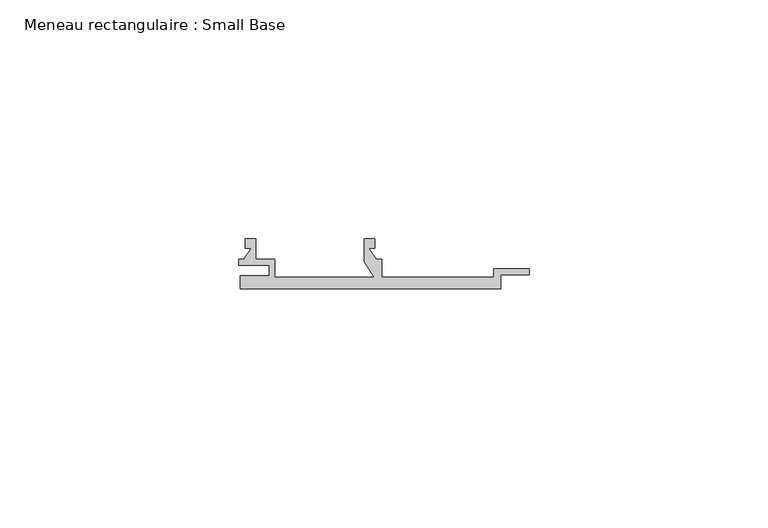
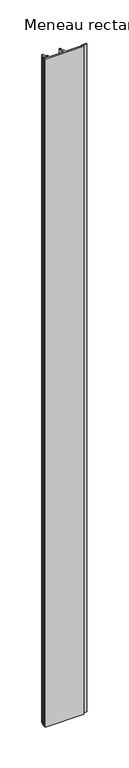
"""IFC4 building model written with IfcOpenShell, lengths in millimetres: member geometry, Meneau rectangulaire : Small Base."""

from ifc_helpers import new_model, si_unit, frame, origin, place, context, project, spatial, polyline, outline, extrude, source, transform, mapped, element, save


def meneau_rectangulaire_small_base_5a587032(model_context):
    return source(origin(), model_context, "Body", "SweptSolid", [
        extrude(outline(polyline([(0.0, 0.0), (0.0, 2.7), (6.0195527, 2.7), (6.0195527, 4.9), (-0.3862402, 4.9), (-0.3862402, 6.1021884), (0.6999453, 6.1021884), (2.2885111, 8.4994005), (1.0265772, 8.4994005), (1.0265772, 10.4818695), (3.2291033, 10.4818695), (3.2291033, 6.1), (7.2195527, 6.1), (7.2195527, 2.4), (28.0399616, 2.4), (25.9408405, 5.6343123), (25.9408405, 10.4818695), (28.1433665, 10.4818695), (28.1433665, 8.4994005), (26.8814326, 8.4994005), (28.4699984, 6.1021884), (29.5849719, 6.1021884), (29.5849719, 2.4), (53.0545393, 2.4), (53.0545393, 4.2), (60.5728944, 4.2), (60.5728944, 2.85), (54.5728944, 2.85), (54.5728944, 0.0), (0.0, 0.0)])), frame((0.0, 0.0, -1000.0), z_axis=(0.0, 0.0, 1.0), x_axis=(1.0, 0.0, 0.0)), (0.0, 0.0, 1.0), 1000.0),
    ])


if __name__ == "__main__":
    model = new_model("IFC4")
    model_context = context("Model", 3, world=origin())
    ifc_project = project(units=[si_unit("LENGTHUNIT", "METRE", prefix="MILLI")], contexts=[model_context])
    site = spatial("IfcSite", under=ifc_project)
    building = spatial("IfcBuilding", under=site)
    placement = place(None, origin())
    meneau_rectangulaire_small_base_shape = meneau_rectangulaire_small_base_5a587032(model_context)
    element("IfcMember", 1, ObjectType="Meneau rectangulaire : Small Base", at=placement, inside=building, context=model_context, shape_type="MappedRepresentation", body=[
        mapped(meneau_rectangulaire_small_base_shape, transform((0.0, 0.0, 0.0), x_axis=(1.0, 0.0, 0.0), y_axis=(0.0, 1.0, 0.0), z_axis=(0.0, 0.0, 1.0))),
    ])
    save(model, "model.ifc")
